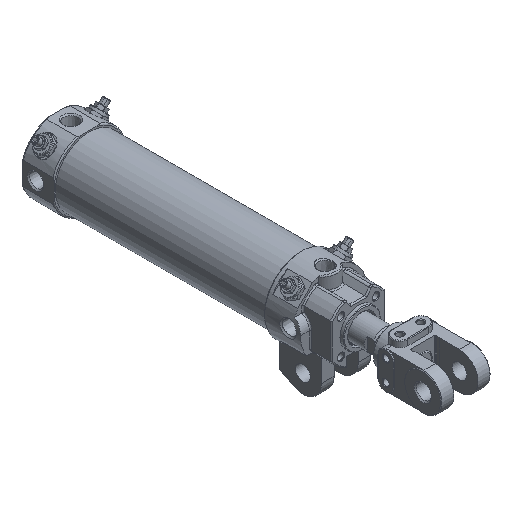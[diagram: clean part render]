
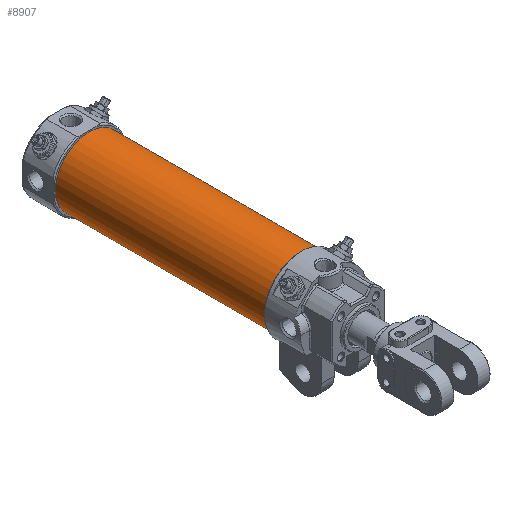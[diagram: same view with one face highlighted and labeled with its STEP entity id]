
A CAD part, isometric view. The second image highlights one B-rep face of the part: STEP entity #8907.
In plain terms, the highlighted cylindrical face has radius 27.5 mm (diameter 55 mm), a full revolution.
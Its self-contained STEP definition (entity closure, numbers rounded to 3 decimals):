
#996=CARTESIAN_POINT('',(27.5,221.0,0.));
#997=VERTEX_POINT('',#996);
#998=CARTESIAN_POINT('',(0.,221.0,0.));
#999=DIRECTION('',(0.0,-1.0,0.0));
#1000=DIRECTION('',(-1.0,0.0,0.0));
#1001=AXIS2_PLACEMENT_3D('',#998,#999,#1000);
#1002=CIRCLE('',#1001,27.5);
#1003=EDGE_CURVE('',#997,#997,#1002,.T.);
#8884=CARTESIAN_POINT('',(27.5,50.,0.));
#8885=VERTEX_POINT('',#8884);
#8886=CARTESIAN_POINT('',(0.,50.,0.));
#8887=DIRECTION('',(0.0,-1.0,0.0));
#8888=DIRECTION('',(-1.0,0.0,0.0));
#8889=AXIS2_PLACEMENT_3D('',#8886,#8887,#8888);
#8890=CIRCLE('',#8889,27.5);
#8891=EDGE_CURVE('',#8885,#8885,#8890,.T.);
#8896=CARTESIAN_POINT('',(0.,50.,0.));
#8897=DIRECTION('',(0.0,1.0,0.));
#8898=DIRECTION('',(-1.0,0.0,0.0));
#8899=AXIS2_PLACEMENT_3D('',#8896,#8897,#8898);
#8900=CYLINDRICAL_SURFACE('',#8899,27.5);
#8901=ORIENTED_EDGE('',*,*,#1003,.T.);
#8902=EDGE_LOOP('',(#8901));
#8903=FACE_OUTER_BOUND('',#8902,.T.);
#8904=ORIENTED_EDGE('',*,*,#8891,.F.);
#8905=EDGE_LOOP('',(#8904));
#8906=FACE_BOUND('',#8905,.T.);
#8907=ADVANCED_FACE('',(#8903,#8906),#8900,.T.);
